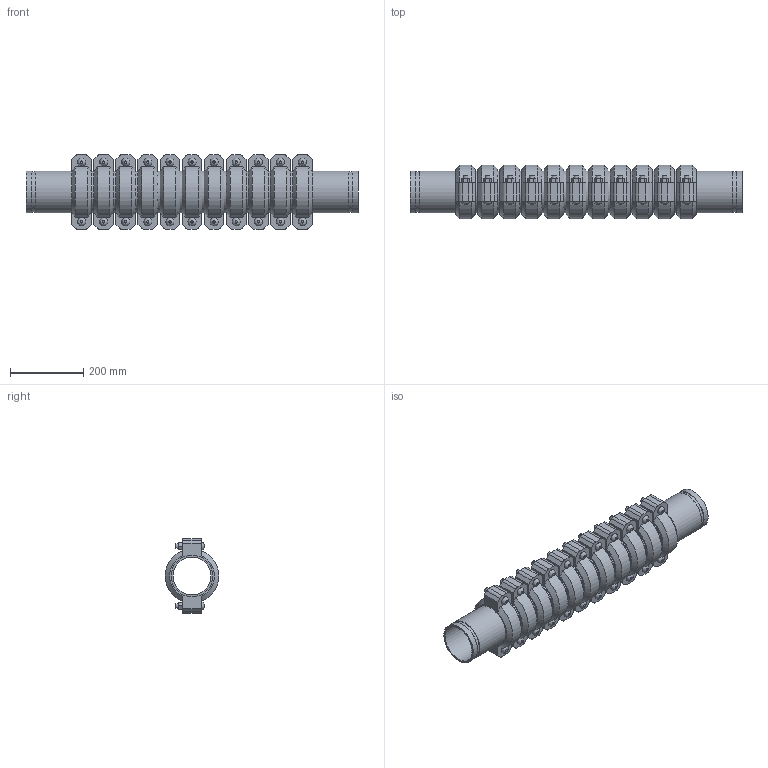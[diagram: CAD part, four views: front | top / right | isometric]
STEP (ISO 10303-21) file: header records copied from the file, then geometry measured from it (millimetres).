
FILE_DESCRIPTION(/* description */ ('VIC SS EXPANSION JOINT 11 COUPLINGS COMPRESSED STYLE 155P (OGS) (POTABLE WATER) ','CAx-IF Rec.Pracs.---Representation and Presentation of Product Manufacturing Information (PMI)---4.0---2014-10-13'),/* implementation_level */ '2;1');
FILE_NAME(/* name */ 'C:\Users\kkamble\AppData\Roaming\Autodesk\ApplicationPlugins\Victaulic.Temp\A148\Victaulic_SS_Expansion Joint_Compressed_11 Couplings_Style 155P (OGS)-Potable Water_11 Coup_Comp_4 (100).stp',/* time_stamp */ '2021-07-16T17:06:55+06:00',/* author */ ('kkamble'),/* organization */ ('Victaulic'),/* preprocessor_version */ 'ST-DEVELOPER v17.2',/* originating_system */ 'Autodesk Inventor 2019',/* authorisation */ '');
FILE_SCHEMA (('AP242_MANAGED_MODEL_BASED_3D_ENGINEERING_MIM_LF { 1 0 10303 442 1 1 4 }'));
Length unit declared in the file: inch
Products named in the file (4): 155P-04.0; Nipple-04.0; Nipple-04.0_1; 075-04.0
Assembly tree (23 placements, depth 2):
  155P-04.0
    Nipple-04.0  x2
    Nipple-04.0_1  x10
    075-04.0  x11
Bounding box: 908.56 x 147.32 x 203.96 mm (x, y, z)
Volume: 6713314.3 mm3; surface area: 1532190.2 mm2
Topology: 23 solids, 45 shells, 727 faces, 1757 edges, 1234 vertices
Faces by surface type: plane 446, cylinder 215, cone 44, bspline 22
Full cylindrical faces by diameter (mm): 12.7 x44, 14.605 x22, 103.988 x12, 110.084 x24, 114.3 x47
Entity records: 2785 total; most frequent: CARTESIAN_POINT 493, DIRECTION 471, ORIENTED_EDGE 374, AXIS2_PLACEMENT_3D 190, EDGE_CURVE 187, VERTEX_POINT 134, EDGE_LOOP 101, LINE 91
